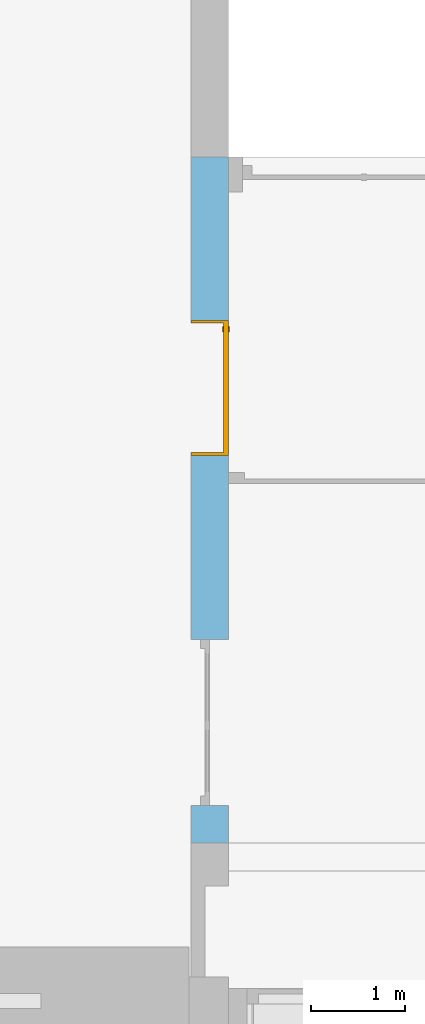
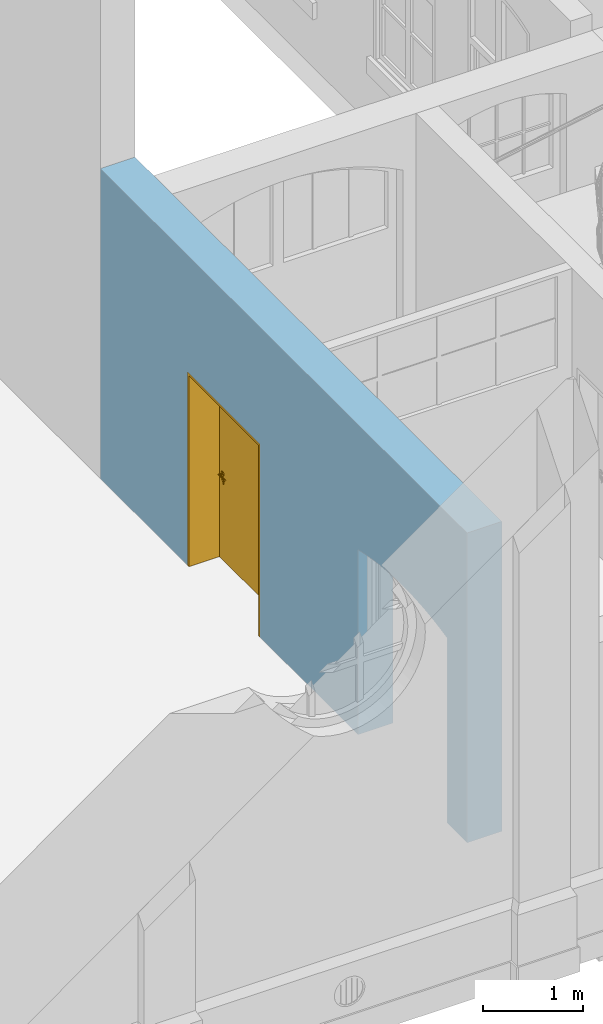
"""IFC4 building model written with IfcOpenShell, lengths in metres."""

import ifcopenshell
import ifcopenshell.guid

model = None  # the IFC model being written
_history = None  # IfcOwnerHistory: only IFC2X3 demands one
_inside = {}  # id of a spatial element -> (the spatial element, [elements in it])
_under = {}  # id of a project, library or spatial element -> (it, [spatial elements below it])
_declared = {}  # id of a project -> (the project, [libraries it declares])
_typed = {}  # id of a type object -> (the type object, [elements of that type])
_made_of = {}  # id of a material, layer set ... -> (it, [elements and type objects made of it])


def new_model(schema):
    """Start an empty IFC model of exactly this schema.

    Asked for "IFC4X3", IfcOpenShell would pick the latest addendum, in which some entities
    have other attributes; the version numbers below select the first issue.
    IFC2X3 requires an IfcOwnerHistory on every rooted entity: one is made here for all.
    """
    global model, _history
    if schema == "IFC4X3":
        model = ifcopenshell.file(schema_version=(4, 3, 0, 0))
    else:
        model = ifcopenshell.file(schema=schema)
    _inside.clear()
    _under.clear()
    _declared.clear()
    _typed.clear()
    _made_of.clear()
    _history = None
    if model.schema == "IFC2X3":
        org = make("IfcOrganization", Name="unknown")
        user = make(
            "IfcPersonAndOrganization",
            ThePerson=make("IfcPerson", FamilyName="unknown"),
            TheOrganization=org,
        )
        app = make(
            "IfcApplication",
            ApplicationDeveloper=org,
            Version="unknown",
            ApplicationFullName="unknown",
            ApplicationIdentifier="unknown",
        )
        _history = make(
            "IfcOwnerHistory",
            OwningUser=user,
            OwningApplication=app,
            ChangeAction="ADDED",
            CreationDate=0,
        )
    return model


def make(cls, **values):
    """One entity of the class cls with the attributes given. An attribute that is None is left unset."""
    return model.create_entity(
        cls, **{name: value for name, value in values.items() if value is not None}
    )


def entity(cls, *values):
    """Any entity or typed value of the class cls, its attributes in the order of the schema. None: left unset."""
    e = model.create_entity(cls)
    for i, value in enumerate(values):
        if value is not None:
            e[i] = value
    return e


def rooted(cls, **values):
    """An entity with a GlobalId (a new one), such as an element, a storey or a relation."""
    return make(cls, GlobalId=ifcopenshell.guid.new(), OwnerHistory=_history, **values)


def si_unit(unit_type, name, prefix=None):
    """IfcSIUnit, for example si_unit("LENGTHUNIT", "METRE", prefix="MILLI")."""
    return make("IfcSIUnit", UnitType=unit_type, Prefix=prefix, Name=name)


def converted_unit(unit_type, name, factor, base, dimensions=None, offset=None):
    """IfcConversionBasedUnit, such as the inch: factor (a typed value) times the base unit."""
    return make(
        "IfcConversionBasedUnit"
        if offset is None
        else "IfcConversionBasedUnitWithOffset",
        ConversionOffset=offset,
        Dimensions=None
        if dimensions is None
        else entity("IfcDimensionalExponents", *dimensions),
        UnitType=unit_type,
        Name=name,
        ConversionFactor=make(
            "IfcMeasureWithUnit", ValueComponent=factor, UnitComponent=base
        ),
    )


def derived_unit(unit_type, elements):
    """IfcDerivedUnit: a product of units, each with its exponent."""
    return make(
        "IfcDerivedUnit",
        Elements=[
            make("IfcDerivedUnitElement", Unit=unit, Exponent=power)
            for unit, power in elements
        ],
        UnitType=unit_type,
    )


def assignment(units):
    """IfcUnitAssignment: the units of a project."""
    return None if units is None else make("IfcUnitAssignment", Units=units)


def point(xyz):
    """IfcCartesianPoint."""
    return None if xyz is None else make("IfcCartesianPoint", Coordinates=xyz)


def direction(xyz):
    """IfcDirection."""
    return None if xyz is None else make("IfcDirection", DirectionRatios=xyz)


def frame(location, z_axis=None, x_axis=None):
    """IfcAxis2Placement3D, a coordinate frame: its origin and axes. An axis left out is left unset."""
    return make(
        "IfcAxis2Placement3D",
        Location=point(location),
        Axis=direction(z_axis),
        RefDirection=direction(x_axis),
    )


def frame_2d(location, x_axis=None):
    """IfcAxis2Placement2D, a coordinate frame in the plane: its origin and x axis."""
    return make(
        "IfcAxis2Placement2D", Location=point(location), RefDirection=direction(x_axis)
    )


def origin():
    """The frame at (0, 0, 0) with its axes left unset."""
    return frame((0.0, 0.0, 0.0))


def origin_with_axes():
    """The frame at (0, 0, 0) with the z axis (0, 0, 1) and the x axis (1, 0, 0) written out."""
    return frame((0.0, 0.0, 0.0), z_axis=(0.0, 0.0, 1.0), x_axis=(1.0, 0.0, 0.0))


def place(relative_to, where):
    """IfcLocalPlacement: puts the frame where relative to a parent placement (None: the world)."""
    return make(
        "IfcLocalPlacement", PlacementRelTo=relative_to, RelativePlacement=where
    )


def context(
    kind, dimensions, precision=None, world=None, true_north=None, identifier=None
):
    """IfcGeometricRepresentationContext, for example the 3D "Model" context."""
    return make(
        "IfcGeometricRepresentationContext",
        ContextIdentifier=identifier,
        ContextType=kind,
        CoordinateSpaceDimension=dimensions,
        Precision=precision,
        WorldCoordinateSystem=world,
        TrueNorth=true_north,
    )


def subcontext(parent, identifier, kind, view, scale=None):
    """IfcGeometricRepresentationSubContext, for example "Body" below "Model"."""
    return make(
        "IfcGeometricRepresentationSubContext",
        ContextIdentifier=identifier,
        ContextType=kind,
        ParentContext=parent,
        TargetScale=scale,
        TargetView=view,
    )


def project(units=None, contexts=None):
    """IfcProject with its units and contexts."""
    return rooted(
        "IfcProject",
        Name="project",
        RepresentationContexts=contexts,
        UnitsInContext=assignment(units),
    )


def spatial(cls, under=None, at=None, **own):
    """A site, building, storey or space (cls), placed at a placement, below another one or the project."""
    s = rooted(cls, ObjectPlacement=at, **own)
    if under is not None:
        _under.setdefault(under.id(), (under, []))[1].append(s)
    return s


def polyline(points):
    """IfcPolyline through the points."""
    return make("IfcPolyline", Points=[point(p) for p in points])


def profile(cls, at=None, kind="AREA", **sizes):
    """A parametric profile (cls). Its sizes go by their IFC names, for example OverallWidth=200.0."""
    return make(cls, ProfileType=kind, Position=at, **sizes)


def rectangle(**sizes):
    """IfcRectangleProfileDef."""
    return profile("IfcRectangleProfileDef", **sizes)


def outline(outer, holes=None, kind="AREA"):
    """IfcArbitraryClosedProfileDef: a profile drawn as a closed curve; with holes, ...WithVoids."""
    if holes is None:
        return make("IfcArbitraryClosedProfileDef", ProfileType=kind, OuterCurve=outer)
    return make(
        "IfcArbitraryProfileDefWithVoids",
        ProfileType=kind,
        OuterCurve=outer,
        InnerCurves=holes,
    )


def extrude(swept, where, along, depth):
    """IfcExtrudedAreaSolid: the profile swept, set in the frame where, extruded along a direction by depth."""
    return make(
        "IfcExtrudedAreaSolid",
        SweptArea=swept,
        Position=where,
        ExtrudedDirection=direction(along),
        Depth=depth,
    )


def faces_of(points, faces, orient=None, outer=None):
    """IfcFace entities. A face is a list of loops; a loop is a list of indices into points, from 0.

    orient and outer hold one flag for each loop. By default every Orientation is true, the
    first loop of a face is its IfcFaceOuterBound and the others are IfcFaceBound.
    """
    made = []
    for i, loops in enumerate(faces):
        bounds = []
        for j, loop in enumerate(loops):
            is_outer = j == 0 if outer is None else outer[i][j]
            bounds.append(
                make(
                    "IfcFaceOuterBound" if is_outer else "IfcFaceBound",
                    Bound=make("IfcPolyLoop", Polygon=[points[k] for k in loop]),
                    Orientation=True if orient is None else orient[i][j],
                )
            )
        made.append(make("IfcFace", Bounds=bounds))
    return made


def faceted_brep(points, faces, orient=None, outer=None, voids=None):
    """IfcFacetedBrep: a solid bounded by flat faces; with voids (closed shells), ...WithVoids."""
    shared = [point(p) for p in points]
    hull = make("IfcClosedShell", CfsFaces=faces_of(shared, faces, orient, outer))
    if voids is None:
        return make("IfcFacetedBrep", Outer=hull)
    return make(
        "IfcFacetedBrepWithVoids",
        Outer=hull,
        Voids=[
            make(cls, CfsFaces=faces_of(shared, fs, o, b)) for cls, fs, o, b in voids
        ],
    )


def shape(context_of_items, identifier, shape_type, items):
    """IfcShapeRepresentation: the items that make up one representation, for example the "Body"."""
    return make(
        "IfcShapeRepresentation",
        ContextOfItems=context_of_items,
        RepresentationIdentifier=identifier,
        RepresentationType=shape_type,
        Items=items,
    )


def source(mapping_origin, context_of_items, identifier, shape_type, items):
    """IfcRepresentationMap: a shape defined once, which mapped items show again and again."""
    return make(
        "IfcRepresentationMap",
        MappingOrigin=mapping_origin,
        MappedRepresentation=shape(context_of_items, identifier, shape_type, items),
    )


def transform(
    local_origin,
    x_axis=None,
    y_axis=None,
    z_axis=None,
    scale=None,
    scale2=None,
    scale3=None,
    uniform=True,
):
    """IfcCartesianTransformationOperator3D, or its non-uniform kind. x_axis, y_axis, z_axis: its Axis1, 2, 3."""
    if uniform:
        return make(
            "IfcCartesianTransformationOperator3D",
            Axis1=direction(x_axis),
            Axis2=direction(y_axis),
            LocalOrigin=point(local_origin),
            Scale=scale,
            Axis3=direction(z_axis),
        )
    return make(
        "IfcCartesianTransformationOperator3DnonUniform",
        Axis1=direction(x_axis),
        Axis2=direction(y_axis),
        LocalOrigin=point(local_origin),
        Scale=scale,
        Axis3=direction(z_axis),
        Scale2=scale2,
        Scale3=scale3,
    )


def mapped(mapping_source, mapping_target):
    """IfcMappedItem: shows the shape of a source again, moved by a transform."""
    return make(
        "IfcMappedItem", MappingSource=mapping_source, MappingTarget=mapping_target
    )


def material(Name=None, Category=None):
    """IfcMaterial."""
    return make("IfcMaterial", Name=Name, Category=Category)


def layer(
    of_material, thickness, ventilated=None, Name=None, Category=None, Priority=None
):
    """IfcMaterialLayer: one layer of a wall or slab, of a material (None: an air gap)."""
    return make(
        "IfcMaterialLayer",
        Material=of_material,
        LayerThickness=thickness,
        IsVentilated=ventilated,
        Name=Name,
        Category=Category,
        Priority=Priority,
    )


def layer_set(layers, Name=None):
    """IfcMaterialLayerSet."""
    return make("IfcMaterialLayerSet", MaterialLayers=layers, LayerSetName=Name)


def layer_usage(for_layer_set, set_direction, sense, offset, extent=None):
    """IfcMaterialLayerSetUsage: how a layer set lies in its element."""
    return make(
        "IfcMaterialLayerSetUsage",
        ForLayerSet=for_layer_set,
        LayerSetDirection=set_direction,
        DirectionSense=sense,
        OffsetFromReferenceLine=offset,
        ReferenceExtent=extent,
    )


def made_of(thing, what):
    """Note that an element or type object is made of a material, layer set ...; save() writes the relation."""
    if what is not None:
        _made_of.setdefault(what.id(), (what, []))[1].append(thing)
    return thing


def type_object(cls, material=None, **own):
    """A type object (cls), such as IfcWallType, which elements share."""
    return made_of(rooted(cls, **own), material)


def element(
    cls,
    number,
    at=None,
    inside=None,
    cuts=None,
    type_object=None,
    material=None,
    context=None,
    identifier="Body",
    shape_type=None,
    held_by="IfcProductDefinitionShape",
    body=None,
    shapes=None,
    **own,
):
    """One element of the class cls, such as IfcWall. Its Tag is "e" and its number.

    at: its placement. inside: the storey or other place that contains it. cuts: it is an
    opening in that element (IfcRelVoidsElement). A single representation is given by context,
    identifier, shape_type and body (its items); several are given by shapes. held_by: the class
    of the entity that holds the representations. save() writes the other relations.
    """
    e = rooted(cls, Tag="e%d" % number, ObjectPlacement=at, **own)
    if body is not None:
        shapes = [shape(context, identifier, shape_type, body)]
    if shapes is not None:
        e.Representation = make(held_by, Representations=shapes)
    if inside is not None:
        _inside.setdefault(inside.id(), (inside, []))[1].append(e)
    if cuts is not None:
        rooted(
            "IfcRelVoidsElement", RelatingBuildingElement=cuts, RelatedOpeningElement=e
        )
    if type_object is not None:
        _typed.setdefault(type_object.id(), (type_object, []))[1].append(e)
    return made_of(e, material)


def fill(opening, filler):
    """IfcRelFillsElement: the door or window that sits in an opening."""
    return rooted(
        "IfcRelFillsElement",
        RelatingOpeningElement=opening,
        RelatedBuildingElement=filler,
    )


def aggregate(whole, parts):
    """IfcRelAggregates: a whole, such as a stair, and the parts it consists of."""
    return rooted("IfcRelAggregates", RelatingObject=whole, RelatedObjects=parts)


def save(model, path):
    """Write the relations noted so far, then the file.

    IfcRelAggregates (storeys below a building ...), IfcRelContainedInSpatialStructure (elements
    in a storey), IfcRelDefinesByType, IfcRelAssociatesMaterial and IfcRelDeclares: one each for
    every whole, place, type object, material and project.
    """
    for whole, parts in _under.values():
        aggregate(whole, parts)
    for where, things in _inside.values():
        rooted(
            "IfcRelContainedInSpatialStructure",
            RelatedElements=things,
            RelatingStructure=where,
        )
    for kind, things in _typed.values():
        rooted("IfcRelDefinesByType", RelatedObjects=things, RelatingType=kind)
    for what, things in _made_of.values():
        rooted("IfcRelAssociatesMaterial", RelatedObjects=things, RelatingMaterial=what)
    for by, libraries in _declared.values():
        rooted("IfcRelDeclares", RelatingContext=by, RelatedDefinitions=libraries)
    model.write(path)


model = new_model("IFC4")

# Units and contexts
model_context = context("Model", 3, precision=1e-05, world=origin())
body_context = subcontext(model_context, "Body", "Model", "MODEL_VIEW")
ifc_project = project(units=[si_unit("LENGTHUNIT", "METRE"), si_unit("AREAUNIT", "SQUARE_METRE"), si_unit("VOLUMEUNIT", "CUBIC_METRE"), si_unit("MASSUNIT", "GRAM", prefix="KILO"), converted_unit("PLANEANGLEUNIT", "DEGREE", entity("IfcPlaneAngleMeasure", 0.0174532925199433), si_unit("PLANEANGLEUNIT", "RADIAN"), dimensions=[0, 0, 0, 0, 0, 0, 0]), derived_unit("THERMALTRANSMITTANCEUNIT", [(si_unit("POWERUNIT", "WATT"), 1), (si_unit("THERMODYNAMICTEMPERATUREUNIT", "KELVIN"), -1), (si_unit("LENGTHUNIT", "METRE"), -2)]), derived_unit("VOLUMETRICFLOWRATEUNIT", [(si_unit("LENGTHUNIT", "METRE"), 3), (converted_unit("TIMEUNIT", "hour", entity("IfcTimeMeasure", 3600.0), si_unit("TIMEUNIT", "SECOND"), dimensions=[0, 0, 1, 0, 0, 0, 0]), -1), (si_unit("LENGTHUNIT", "METRE"), -1)])], contexts=[model_context])

# Building, storeys
building_placement = place(None, origin())
building = spatial("IfcBuilding", under=ifc_project, at=building_placement, Name="Bestandsgebäude A - Sporthalle / Wohnhaus (TB 100-499)   ANPASSEN !!!", CompositionType="ELEMENT")
storey_1_placement = place(building_placement, origin())
storey_1 = spatial("IfcBuildingStorey", under=building, at=storey_1_placement, Name="Geb. A Erdgeschoss (TB 200-249)", CompositionType="ELEMENT", Elevation=0.0)
storey_2_placement = place(storey_1_placement, origin())
storey_2 = spatial("IfcBuildingStorey", under=storey_1, at=storey_2_placement, Name="Architektur (TB 200-209)", CompositionType="PARTIAL")

# Wall, openings, door
ifc_material = material(Name="concrete")
ifc_layer = layer(ifc_material, 0.4)
ifc_layer_set = layer_set([ifc_layer])
ifc_layer_usage = layer_usage(ifc_layer_set, "AXIS2", "POSITIVE", 0.0)
wall_placement = place(storey_2_placement, frame((-8.5, 1.94, 0.0), z_axis=(0.0, 0.0, 1.0), x_axis=(0.0, 1.0, 0.0)))
wall = element("IfcWall", 1, at=wall_placement, inside=storey_2, material=ifc_layer_usage, Name="reinforced - bearing", PredefinedType="USERDEFINED", context=body_context, shape_type="SweptSolid", body=[
    extrude(rectangle(XDim=7.31, YDim=0.4, at=frame_2d((3.655, 0.2), x_axis=(1.0, 0.0))), origin_with_axes(), (0.0, 0.0, 1.0), 3.77),
])
opening_1_placement = place(wall_placement, frame((5.56999999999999, 0.4, 0.0), z_axis=(0.0, -1.0, 0.0), x_axis=(0.0, 0.0, 1.0)))
opening_1 = element("IfcOpeningElement", 2, at=opening_1_placement, cuts=wall, Name="Door opening", PredefinedType="OPENING", context=body_context, shape_type="SweptSolid", body=[
    extrude(outline(polyline([(2.35, 1.44), (2.35, 0.0), (0.0, 0.0), (0.0, 1.44), (2.35, 1.44)])), origin_with_axes(), (0.0, 0.0, 1.0), 0.4),
])
opening_2_placement = place(wall_placement, frame((2.17, 0.4, 0.0), z_axis=(0.0, -1.0, 0.0), x_axis=(0.0, 0.0, 1.0)))
element("IfcOpeningElement", 3, at=opening_2_placement, cuts=wall, Name="Door opening", PredefinedType="OPENING", context=body_context, shape_type="SweptSolid", body=[
    extrude(outline(polyline([(2.25, 1.77), (2.2628414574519, 1.71190189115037), (2.27480989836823, 1.65361767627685), (2.28590262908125, 1.5951604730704), (2.29611715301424, 1.5365434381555), (2.30545117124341, 1.47777976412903), (2.31390258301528, 1.41888267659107), (2.32146948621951, 1.35986543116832), (2.32815017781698, 1.30074131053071), (2.33394315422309, 1.24152362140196), (2.33884711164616, 1.1822256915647), (2.34286094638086, 1.12286086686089), (2.34598375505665, 1.06344250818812), (2.34821483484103, 1.00398398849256), (2.3495536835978, 0.944498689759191), (2.35, 0.884999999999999), (2.3495536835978, 0.825501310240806), (2.34821483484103, 0.766016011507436), (2.34598375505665, 0.706557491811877), (2.34286094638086, 0.647139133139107), (2.33884711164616, 0.587774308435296), (2.33394315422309, 0.528476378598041), (2.32815017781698, 0.469258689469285), (2.32146948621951, 0.410134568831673), (2.31390258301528, 0.351117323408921), (2.30545117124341, 0.292220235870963), (2.29611715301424, 0.233456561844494), (2.28590262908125, 0.174839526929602), (2.27480989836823, 0.116382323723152), (2.2628414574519, 0.0580981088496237), (2.25, 0.0), (0.0, 0.0), (0.0, 1.77), (2.25, 1.77)])), origin_with_axes(), (0.0, 0.0, 1.0), 0.4),
])
door_type = type_object("IfcDoorType", Name="door", OperationType="SINGLE_SWING_RIGHT", ParameterTakesPrecedence=False, PredefinedType="DOOR")
shared_shape = source(origin_with_axes(), body_context, "Body", "Brep", [
    faceted_brep([(0.0, 0.400000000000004, 2.35), (0.0, 0.400000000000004, 0.0), (0.0300000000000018, 0.400000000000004, 0.0), (0.0300000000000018, 0.400000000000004, 2.35), (0.0, 0.0, 0.0), (0.0, 0.0, 2.35), (0.0300000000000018, 0.0, 2.35), (0.0300000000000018, 0.0, 0.0)], [[[0, 1, 2, 3]], [[4, 5, 6, 7]], [[1, 0, 5, 4]], [[2, 1, 4, 7]], [[3, 2, 7, 6]], [[0, 3, 6, 5]]], orient=[[False], [False], [False], [False], [False], [False]]),
    faceted_brep([(1.41, 0.400000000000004, 2.35), (1.41, 0.400000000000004, 0.0), (1.44, 0.400000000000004, 0.0), (1.44, 0.400000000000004, 2.35), (1.41, 0.0, 0.0), (1.41, 0.0, 2.35), (1.44, 0.0, 2.35), (1.44, 0.0, 0.0)], [[[0, 1, 2, 3]], [[4, 5, 6, 7]], [[1, 0, 5, 4]], [[2, 1, 4, 7]], [[3, 2, 7, 6]], [[0, 3, 6, 5]]], orient=[[False], [False], [False], [False], [False], [False]]),
    faceted_brep([(0.0300000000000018, 0.400000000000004, 2.35), (0.0300000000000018, 0.400000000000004, 2.32), (1.41, 0.400000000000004, 2.32), (1.41, 0.400000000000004, 2.35), (0.0300000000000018, 0.0, 2.32), (0.0300000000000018, 0.0, 2.35), (1.41, 0.0, 2.35), (1.41, 0.0, 2.32)], [[[0, 1, 2, 3]], [[4, 5, 6, 7]], [[1, 0, 5, 4]], [[2, 1, 4, 7]], [[3, 2, 7, 6]], [[0, 3, 6, 5]]], orient=[[False], [False], [False], [False], [False], [False]]),
    faceted_brep([(0.0300000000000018, 0.400000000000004, 2.32), (0.0300000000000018, 0.400000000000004, 0.0), (1.41, 0.400000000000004, 0.0), (1.41, 0.400000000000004, 2.32), (0.0300000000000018, 0.350000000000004, 0.0), (0.0300000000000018, 0.350000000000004, 2.32), (1.41, 0.350000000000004, 2.32), (1.41, 0.350000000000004, 0.0)], [[[0, 1, 2, 3]], [[4, 5, 6, 7]], [[1, 0, 5, 4]], [[2, 1, 4, 7]], [[3, 2, 7, 6]], [[0, 3, 6, 5]]], orient=[[False], [False], [False], [False], [False], [False]]),
    faceted_brep([(0.118815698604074, 0.350000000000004, 0.93625), (0.122500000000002, 0.350000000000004, 0.95), (0.118815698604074, 0.350000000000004, 0.96375), (0.108750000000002, 0.350000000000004, 0.973815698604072), (0.0950000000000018, 0.350000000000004, 0.9775), (0.0812500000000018, 0.350000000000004, 0.973815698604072), (0.0711843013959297, 0.350000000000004, 0.96375), (0.0675000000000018, 0.350000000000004, 0.95), (0.0711843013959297, 0.350000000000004, 0.93625), (0.0812500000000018, 0.350000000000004, 0.926184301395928), (0.0950000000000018, 0.350000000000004, 0.9225), (0.108750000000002, 0.350000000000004, 0.926184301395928), (0.122500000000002, 0.337500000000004, 0.95), (0.118815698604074, 0.337500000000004, 0.93625), (0.108750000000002, 0.337500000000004, 0.926184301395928), (0.0950000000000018, 0.337500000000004, 0.9225), (0.0812500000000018, 0.337500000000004, 0.926184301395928), (0.0711843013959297, 0.337500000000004, 0.93625), (0.0675000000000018, 0.337500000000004, 0.95), (0.0711843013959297, 0.337500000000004, 0.96375), (0.0812500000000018, 0.337500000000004, 0.973815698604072), (0.0950000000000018, 0.337500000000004, 0.9775), (0.108750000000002, 0.337500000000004, 0.973815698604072), (0.118815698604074, 0.337500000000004, 0.96375)], [[[0, 1, 2, 3, 4, 5, 6, 7, 8, 9, 10, 11]], [[12, 13, 14, 15, 16, 17, 18, 19, 20, 21, 22, 23]], [[1, 0, 13, 12]], [[2, 1, 12, 23]], [[3, 2, 23, 22]], [[4, 3, 22, 21]], [[5, 4, 21, 20]], [[6, 5, 20, 19]], [[7, 6, 19, 18]], [[8, 7, 18, 17]], [[9, 8, 17, 16]], [[10, 9, 16, 15]], [[11, 10, 15, 14]], [[0, 11, 14, 13]]], orient=[[False], [False], [False], [False], [False], [False], [False], [False], [False], [False], [False], [False], [False], [False]]),
    faceted_brep([(0.118815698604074, 0.350000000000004, 1.03625), (0.122500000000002, 0.350000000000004, 1.05), (0.118815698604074, 0.350000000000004, 1.06375), (0.108750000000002, 0.350000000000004, 1.07381569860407), (0.0950000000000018, 0.350000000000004, 1.0775), (0.0812500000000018, 0.350000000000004, 1.07381569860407), (0.0711843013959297, 0.350000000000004, 1.06375), (0.0675000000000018, 0.350000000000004, 1.05), (0.0711843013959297, 0.350000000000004, 1.03625), (0.0812500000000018, 0.350000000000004, 1.02618430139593), (0.0950000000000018, 0.350000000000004, 1.0225), (0.108750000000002, 0.350000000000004, 1.02618430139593), (0.122500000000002, 0.337500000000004, 1.05), (0.118815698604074, 0.337500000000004, 1.03625), (0.108750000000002, 0.337500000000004, 1.02618430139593), (0.0950000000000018, 0.337500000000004, 1.0225), (0.0812500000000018, 0.337500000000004, 1.02618430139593), (0.0711843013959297, 0.337500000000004, 1.03625), (0.0675000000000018, 0.337500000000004, 1.05), (0.0711843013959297, 0.337500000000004, 1.06375), (0.0812500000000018, 0.337500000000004, 1.07381569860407), (0.0950000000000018, 0.337500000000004, 1.0775), (0.108750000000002, 0.337500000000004, 1.07381569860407), (0.118815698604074, 0.337500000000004, 1.06375)], [[[0, 1, 2, 3, 4, 5, 6, 7, 8, 9, 10, 11]], [[12, 13, 14, 15, 16, 17, 18, 19, 20, 21, 22, 23]], [[1, 0, 13, 12]], [[2, 1, 12, 23]], [[3, 2, 23, 22]], [[4, 3, 22, 21]], [[5, 4, 21, 20]], [[6, 5, 20, 19]], [[7, 6, 19, 18]], [[8, 7, 18, 17]], [[9, 8, 17, 16]], [[10, 9, 16, 15]], [[11, 10, 15, 14]], [[0, 11, 14, 13]]], orient=[[False], [False], [False], [False], [False], [False], [False], [False], [False], [False], [False], [False], [False], [False]]),
    faceted_brep([(0.0950000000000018, 0.350000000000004, 1.06), (0.0900000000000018, 0.350000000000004, 1.05866025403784), (0.0863397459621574, 0.350000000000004, 1.055), (0.0850000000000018, 0.350000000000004, 1.05), (0.0863397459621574, 0.350000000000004, 1.045), (0.0900000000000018, 0.350000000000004, 1.04133974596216), (0.0950000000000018, 0.350000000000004, 1.04), (0.100000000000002, 0.350000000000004, 1.04133974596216), (0.103660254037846, 0.350000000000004, 1.045), (0.105000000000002, 0.350000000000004, 1.05), (0.103660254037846, 0.350000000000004, 1.055), (0.100000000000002, 0.350000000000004, 1.05866025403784), (0.0950000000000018, 0.310000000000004, 1.06), (0.0900000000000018, 0.305000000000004, 1.05866025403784), (0.0863397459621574, 0.301339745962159, 1.055), (0.0850000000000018, 0.300000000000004, 1.05), (0.0863397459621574, 0.301339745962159, 1.045), (0.0900000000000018, 0.305000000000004, 1.04133974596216), (0.0950000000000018, 0.310000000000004, 1.04), (0.100000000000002, 0.315000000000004, 1.04133974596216), (0.103660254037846, 0.318660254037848, 1.045), (0.105000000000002, 0.320000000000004, 1.05), (0.103660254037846, 0.318660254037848, 1.055), (0.100000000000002, 0.315000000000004, 1.05866025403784), (0.210000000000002, 0.310000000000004, 1.06), (0.210000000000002, 0.315000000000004, 1.05866025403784), (0.210000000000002, 0.318660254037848, 1.055), (0.210000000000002, 0.320000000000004, 1.05), (0.210000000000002, 0.318660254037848, 1.045), (0.210000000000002, 0.315000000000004, 1.04133974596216), (0.210000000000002, 0.310000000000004, 1.04), (0.210000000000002, 0.305000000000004, 1.04133974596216), (0.210000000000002, 0.301339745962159, 1.045), (0.210000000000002, 0.300000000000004, 1.05), (0.210000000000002, 0.301339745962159, 1.055), (0.210000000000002, 0.305000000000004, 1.05866025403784)], [[[0, 1, 2, 3, 4, 5, 6, 7, 8, 9, 10, 11]], [[0, 12, 13, 1]], [[1, 13, 14, 2]], [[2, 14, 15, 3]], [[3, 15, 16, 4]], [[4, 16, 17, 5]], [[5, 17, 18, 6]], [[6, 18, 19, 7]], [[7, 19, 20, 8]], [[8, 20, 21, 9]], [[9, 21, 22, 10]], [[10, 22, 23, 11]], [[11, 23, 12, 0]], [[24, 25, 26, 27, 28, 29, 30, 31, 32, 33, 34, 35]], [[12, 24, 35, 13]], [[13, 35, 34, 14]], [[14, 34, 33, 15]], [[15, 33, 32, 16]], [[16, 32, 31, 17]], [[17, 31, 30, 18]], [[18, 30, 29, 19]], [[19, 29, 28, 20]], [[20, 28, 27, 21]], [[21, 27, 26, 22]], [[22, 26, 25, 23]], [[23, 25, 24, 12]]], orient=[[False], [False], [False], [False], [False], [False], [False], [False], [False], [False], [False], [False], [False], [False], [False], [False], [False], [False], [False], [False], [False], [False], [False], [False], [False], [False]]),
    faceted_brep([(0.118815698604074, 0.400000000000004, 0.93625), (0.108750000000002, 0.400000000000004, 0.926184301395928), (0.0950000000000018, 0.400000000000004, 0.9225), (0.0812500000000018, 0.400000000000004, 0.926184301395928), (0.0711843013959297, 0.400000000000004, 0.93625), (0.0675000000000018, 0.400000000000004, 0.95), (0.0711843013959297, 0.400000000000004, 0.96375), (0.0812500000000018, 0.400000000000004, 0.973815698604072), (0.0950000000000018, 0.400000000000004, 0.9775), (0.108750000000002, 0.400000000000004, 0.973815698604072), (0.118815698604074, 0.400000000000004, 0.96375), (0.122500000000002, 0.400000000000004, 0.95), (0.122500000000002, 0.412500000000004, 0.95), (0.118815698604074, 0.412500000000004, 0.96375), (0.108750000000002, 0.412500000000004, 0.973815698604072), (0.0950000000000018, 0.412500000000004, 0.9775), (0.0812500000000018, 0.412500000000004, 0.973815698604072), (0.0711843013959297, 0.412500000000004, 0.96375), (0.0675000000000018, 0.412500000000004, 0.95), (0.0711843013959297, 0.412500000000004, 0.93625), (0.0812500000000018, 0.412500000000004, 0.926184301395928), (0.0950000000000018, 0.412500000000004, 0.9225), (0.108750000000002, 0.412500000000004, 0.926184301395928), (0.118815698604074, 0.412500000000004, 0.93625)], [[[0, 1, 2, 3, 4, 5, 6, 7, 8, 9, 10, 11]], [[12, 13, 14, 15, 16, 17, 18, 19, 20, 21, 22, 23]], [[11, 12, 23, 0]], [[10, 13, 12, 11]], [[9, 14, 13, 10]], [[8, 15, 14, 9]], [[7, 16, 15, 8]], [[6, 17, 16, 7]], [[5, 18, 17, 6]], [[4, 19, 18, 5]], [[3, 20, 19, 4]], [[2, 21, 20, 3]], [[1, 22, 21, 2]], [[0, 23, 22, 1]]], orient=[[False], [False], [False], [False], [False], [False], [False], [False], [False], [False], [False], [False], [False], [False]]),
    faceted_brep([(0.118815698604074, 0.400000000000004, 1.03625), (0.108750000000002, 0.400000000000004, 1.02618430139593), (0.0950000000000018, 0.400000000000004, 1.0225), (0.0812500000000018, 0.400000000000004, 1.02618430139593), (0.0711843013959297, 0.400000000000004, 1.03625), (0.0675000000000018, 0.400000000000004, 1.05), (0.0711843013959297, 0.400000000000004, 1.06375), (0.0812500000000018, 0.400000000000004, 1.07381569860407), (0.0950000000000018, 0.400000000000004, 1.0775), (0.108750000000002, 0.400000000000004, 1.07381569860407), (0.118815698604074, 0.400000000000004, 1.06375), (0.122500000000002, 0.400000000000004, 1.05), (0.122500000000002, 0.412500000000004, 1.05), (0.118815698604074, 0.412500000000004, 1.06375), (0.108750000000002, 0.412500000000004, 1.07381569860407), (0.0950000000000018, 0.412500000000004, 1.0775), (0.0812500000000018, 0.412500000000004, 1.07381569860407), (0.0711843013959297, 0.412500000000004, 1.06375), (0.0675000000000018, 0.412500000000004, 1.05), (0.0711843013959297, 0.412500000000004, 1.03625), (0.0812500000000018, 0.412500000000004, 1.02618430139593), (0.0950000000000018, 0.412500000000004, 1.0225), (0.108750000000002, 0.412500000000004, 1.02618430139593), (0.118815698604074, 0.412500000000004, 1.03625)], [[[0, 1, 2, 3, 4, 5, 6, 7, 8, 9, 10, 11]], [[12, 13, 14, 15, 16, 17, 18, 19, 20, 21, 22, 23]], [[11, 12, 23, 0]], [[10, 13, 12, 11]], [[9, 14, 13, 10]], [[8, 15, 14, 9]], [[7, 16, 15, 8]], [[6, 17, 16, 7]], [[5, 18, 17, 6]], [[4, 19, 18, 5]], [[3, 20, 19, 4]], [[2, 21, 20, 3]], [[1, 22, 21, 2]], [[0, 23, 22, 1]]], orient=[[False], [False], [False], [False], [False], [False], [False], [False], [False], [False], [False], [False], [False], [False]]),
    faceted_brep([(0.0950000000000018, 0.400000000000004, 1.06), (0.100000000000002, 0.400000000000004, 1.05866025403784), (0.103660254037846, 0.400000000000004, 1.055), (0.105000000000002, 0.400000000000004, 1.05), (0.103660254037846, 0.400000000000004, 1.045), (0.100000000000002, 0.400000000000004, 1.04133974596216), (0.0950000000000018, 0.400000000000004, 1.04), (0.0900000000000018, 0.400000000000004, 1.04133974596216), (0.0863397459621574, 0.400000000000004, 1.045), (0.0850000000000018, 0.400000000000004, 1.05), (0.0863397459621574, 0.400000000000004, 1.055), (0.0900000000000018, 0.400000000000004, 1.05866025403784), (0.0900000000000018, 0.445000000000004, 1.05866025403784), (0.0950000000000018, 0.440000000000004, 1.06), (0.0863397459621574, 0.448660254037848, 1.055), (0.0850000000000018, 0.450000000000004, 1.05), (0.0863397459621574, 0.448660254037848, 1.045), (0.0900000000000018, 0.445000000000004, 1.04133974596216), (0.0950000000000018, 0.440000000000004, 1.04), (0.100000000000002, 0.435000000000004, 1.04133974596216), (0.103660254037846, 0.431339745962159, 1.045), (0.105000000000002, 0.430000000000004, 1.05), (0.103660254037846, 0.431339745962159, 1.055), (0.100000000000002, 0.435000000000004, 1.05866025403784), (0.210000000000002, 0.440000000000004, 1.06), (0.210000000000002, 0.445000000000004, 1.05866025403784), (0.210000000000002, 0.448660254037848, 1.055), (0.210000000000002, 0.450000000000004, 1.05), (0.210000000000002, 0.448660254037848, 1.045), (0.210000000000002, 0.445000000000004, 1.04133974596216), (0.210000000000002, 0.440000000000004, 1.04), (0.210000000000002, 0.435000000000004, 1.04133974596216), (0.210000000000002, 0.431339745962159, 1.045), (0.210000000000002, 0.430000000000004, 1.05), (0.210000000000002, 0.431339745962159, 1.055), (0.210000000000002, 0.435000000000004, 1.05866025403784)], [[[0, 1, 2, 3, 4, 5, 6, 7, 8, 9, 10, 11]], [[0, 11, 12, 13]], [[11, 10, 14, 12]], [[10, 9, 15, 14]], [[9, 8, 16, 15]], [[8, 7, 17, 16]], [[7, 6, 18, 17]], [[6, 5, 19, 18]], [[5, 4, 20, 19]], [[4, 3, 21, 20]], [[3, 2, 22, 21]], [[2, 1, 23, 22]], [[1, 0, 13, 23]], [[24, 25, 26, 27, 28, 29, 30, 31, 32, 33, 34, 35]], [[13, 12, 25, 24]], [[12, 14, 26, 25]], [[14, 15, 27, 26]], [[15, 16, 28, 27]], [[16, 17, 29, 28]], [[17, 18, 30, 29]], [[18, 19, 31, 30]], [[19, 20, 32, 31]], [[20, 21, 33, 32]], [[21, 22, 34, 33]], [[22, 23, 35, 34]], [[23, 13, 24, 35]]], orient=[[False], [False], [False], [False], [False], [False], [False], [False], [False], [False], [False], [False], [False], [False], [False], [False], [False], [False], [False], [False], [False], [False], [False], [False], [False], [False]]),
])
door_placement = place(opening_1_placement, frame((0.0, 0.0, 0.0), z_axis=(1.0, 0.0, 0.0), x_axis=(0.0, 1.0, 0.0)))
door = element("IfcDoor", 4, at=door_placement, inside=storey_2, type_object=door_type, Name="door", OverallHeight=2.35, OverallWidth=1.44, PredefinedType="DOOR", context=body_context, shape_type="MappedRepresentation", body=[
    mapped(shared_shape, transform((0.0, 0.0, 0.0), x_axis=(1.0, 0.0, 0.0), y_axis=(0.0, 1.0, 0.0), z_axis=(0.0, 0.0, 1.0), scale=1.0)),
])
fill(opening_1, door)

save(model, "model.ifc")
